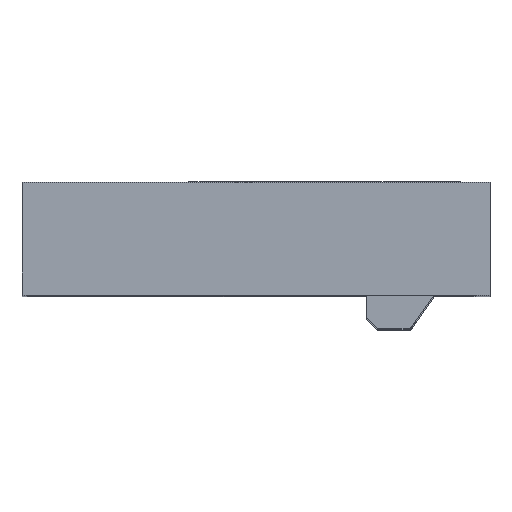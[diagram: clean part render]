
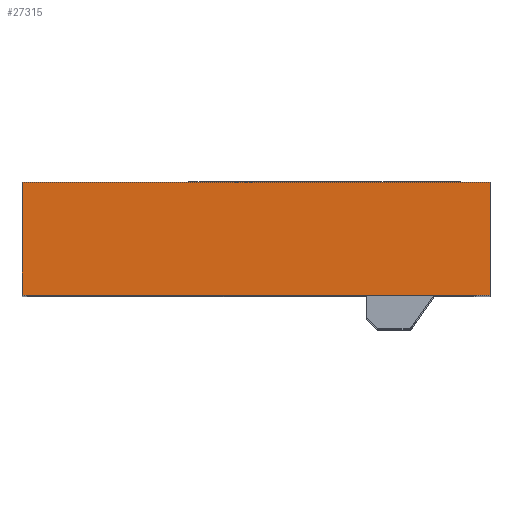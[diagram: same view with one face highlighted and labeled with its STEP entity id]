
A CAD part, top view. The second image highlights one B-rep face of the part: STEP entity #27315.
In plain terms, the highlighted planar face has unit normal (0, 0, 1).
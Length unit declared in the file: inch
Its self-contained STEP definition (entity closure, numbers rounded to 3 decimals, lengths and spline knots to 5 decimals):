
#2444 = PLANE ( 'NONE',  #9651 ) ;
#2573 = DIRECTION ( 'NONE',  ( 0., 0., 1. ) ) ;
#2614 = CARTESIAN_POINT ( 'NONE',  ( 5.72691, 4.58327, 17.56 ) ) ;
#2941 = DIRECTION ( 'NONE',  ( -1., 0., 0. ) ) ;
#3253 = DIRECTION ( 'NONE',  ( -1., 0., 0. ) ) ;
#3269 = CARTESIAN_POINT ( 'NONE',  ( 5.72691, 4.58327, 17.56 ) ) ;
#4327 = EDGE_LOOP ( 'NONE', ( #14319, #14321, #14308, #14310 ) ) ;
#7631 = CARTESIAN_POINT ( 'NONE',  ( 6.03691, 7.08327, 17.56 ) ) ;
#7640 = DIRECTION ( 'NONE',  ( 0., -1., 0. ) ) ;
#7723 = CARTESIAN_POINT ( 'NONE',  ( -4.35009, 7.08327, 17.56 ) ) ;
#8311 = DIRECTION ( 'NONE',  ( 0., -1., 0. ) ) ;
#8509 = CARTESIAN_POINT ( 'NONE',  ( 5.72691, 7.08327, 17.56 ) ) ;
#8572 = DIRECTION ( 'NONE',  ( 1., 0., 0. ) ) ;
#8603 = CARTESIAN_POINT ( 'NONE',  ( -4.35009, 7.08327, 17.56 ) ) ;
#9651 = AXIS2_PLACEMENT_3D ( 'NONE', #2614, #2573, #2941 ) ;
#12170 = EDGE_CURVE ( 'NONE', #25390, #25325, #18974, .T. ) ;
#13543 = EDGE_CURVE ( 'NONE', #13873, #25325, #26559, .T. ) ;
#13716 = EDGE_CURVE ( 'NONE', #13873, #13958, #26944, .T. ) ;
#13721 = EDGE_CURVE ( 'NONE', #13958, #25390, #27380, .T. ) ;
#13873 = VERTEX_POINT ( 'NONE', #7723 ) ;
#13958 = VERTEX_POINT ( 'NONE', #19669 ) ;
#14308 = ORIENTED_EDGE ( 'NONE', *, *, #13543, .T. ) ;
#14310 = ORIENTED_EDGE ( 'NONE', *, *, #12170, .F. ) ;
#14319 = ORIENTED_EDGE ( 'NONE', *, *, #13721, .F. ) ;
#14321 = ORIENTED_EDGE ( 'NONE', *, *, #13716, .F. ) ;
#18578 = VECTOR ( 'NONE', #3253, 39.37008 ) ;
#18974 = LINE ( 'NONE', #3269, #18578 ) ;
#19669 = CARTESIAN_POINT ( 'NONE',  ( 6.03691, 7.08327, 17.56 ) ) ;
#24567 = FACE_OUTER_BOUND ( 'NONE', #4327, .T. ) ;
#25325 = VERTEX_POINT ( 'NONE', #28376 ) ;
#25390 = VERTEX_POINT ( 'NONE', #28081 ) ;
#26442 = VECTOR ( 'NONE', #8572, 39.37008 ) ;
#26559 = LINE ( 'NONE', #8603, #26992 ) ;
#26944 = LINE ( 'NONE', #8509, #26442 ) ;
#26992 = VECTOR ( 'NONE', #8311, 39.37008 ) ;
#27018 = VECTOR ( 'NONE', #7640, 39.37008 ) ;
#27315 = ADVANCED_FACE ( 'NONE', ( #24567 ), #2444, .T. ) ;
#27380 = LINE ( 'NONE', #7631, #27018 ) ;
#28081 = CARTESIAN_POINT ( 'NONE',  ( 6.03691, 4.58327, 17.56 ) ) ;
#28376 = CARTESIAN_POINT ( 'NONE',  ( -4.35009, 4.58327, 17.56 ) ) ;
